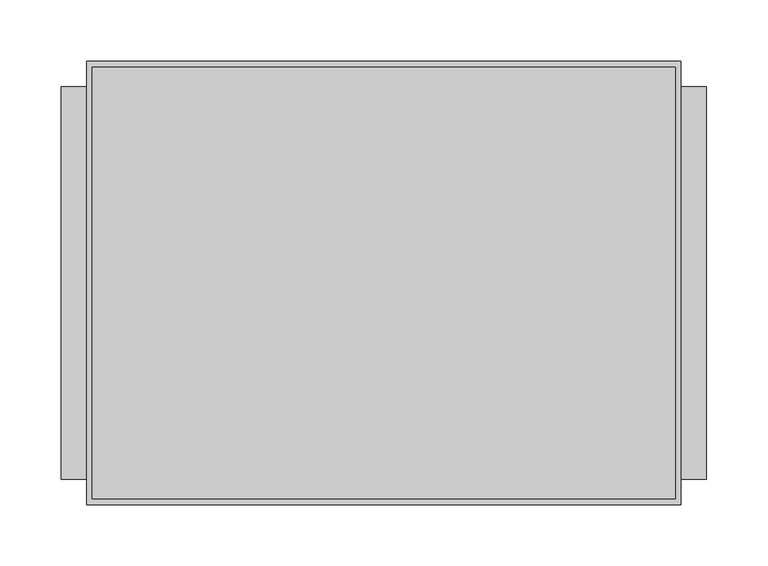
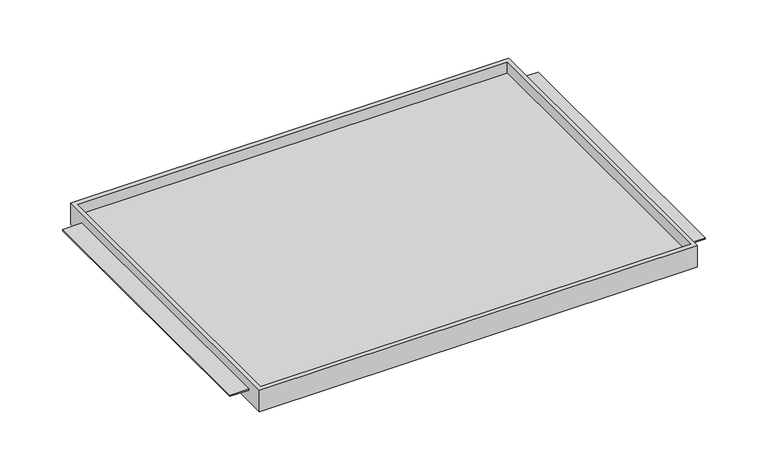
"""IFC4 building model written with IfcOpenShell, lengths in millimetres: furniture geometry."""

from ifc_helpers import new_model, si_unit, origin, place, context, project, spatial, faceted_brep, source, transform, mapped, element, save


def furniture_b7b63fad(model_context):
    return source(origin(), model_context, "Body", "Brep", [
        faceted_brep([(-242.7689646, -180.975, 1358.8111), (242.7689646, -180.975, 1358.8111), (242.7689646, -180.975, 1384.2111), (-242.7689646, -180.975, 1384.2111), (-242.7689646, 180.975, 1358.8111), (-242.7689646, 180.975, 1384.2111), (242.7689646, 180.975, 1384.2111), (242.7689646, 180.975, 1358.8111), (242.7689646, -160.3374879, 1373.1113), (242.7689646, 160.3374879, 1373.1113), (242.7689646, 160.3374879, 1371.5111), (242.7689646, -160.3374879, 1371.5111), (238.125, -176.2125, 1384.2111), (-238.125, -176.2125, 1384.2111), (-238.125, 175.91278, 1384.2111), (238.125, 175.91278, 1384.2111), (-242.7689646, 160.3374879, 1373.1113), (-242.7689646, -160.3374879, 1373.1113), (-242.7689646, -160.3374879, 1371.5111), (-242.7689646, 160.3374879, 1371.5111), (-238.125, -176.2125, 1371.5111), (238.125, -176.2125, 1371.5111), (238.125, 175.91278, 1371.5111), (-238.125, 175.91278, 1371.5111), (-263.525, 160.3374879, 1373.1113), (-263.525, -160.3374879, 1373.1113), (263.525, -160.3374879, 1373.1113), (263.525, 160.3374879, 1373.1113), (-263.525, -160.3374879, 1371.5111), (-263.525, 160.3374879, 1371.5111), (263.525, -160.3374879, 1371.5111), (263.525, 160.3374879, 1371.5111)], [[[0, 1, 2, 3]], [[4, 5, 6, 7]], [[1, 0, 4, 7]], [[2, 1, 7, 6], [8, 9, 10, 11]], [[3, 2, 6, 5], [12, 13, 14, 15]], [[0, 3, 5, 4], [16, 17, 18, 19]], [[20, 21, 22, 23]], [[21, 20, 13, 12]], [[22, 21, 12, 15]], [[23, 22, 15, 14]], [[20, 23, 14, 13]], [[16, 24, 25, 17]], [[26, 27, 9, 8]], [[18, 28, 29, 19]], [[30, 11, 10, 31]], [[24, 16, 19, 29]], [[25, 24, 29, 28]], [[17, 25, 28, 18]], [[27, 26, 30, 31]], [[9, 27, 31, 10]], [[26, 8, 11, 30]]]),
    ])


if __name__ == "__main__":
    model = new_model("IFC4")
    model_context = context("Model", 3, world=origin())
    ifc_project = project(units=[si_unit("LENGTHUNIT", "METRE", prefix="MILLI")], contexts=[model_context])
    site = spatial("IfcSite", under=ifc_project)
    building = spatial("IfcBuilding", under=site)
    placement = place(None, origin())
    furniture_shape = furniture_b7b63fad(model_context)
    element("IfcFurniture", 1, ObjectType="HermanMiller_CoStruc_CO203_CTrayShelf : 14\"D x 20\"W", at=placement, inside=building, context=model_context, shape_type="MappedRepresentation", body=[
        mapped(furniture_shape, transform((0.0, 0.0, 0.0), x_axis=(1.0, 0.0, 0.0), y_axis=(0.0, 1.0, 0.0), z_axis=(0.0, 0.0, 1.0))),
    ])
    save(model, "model.ifc")
